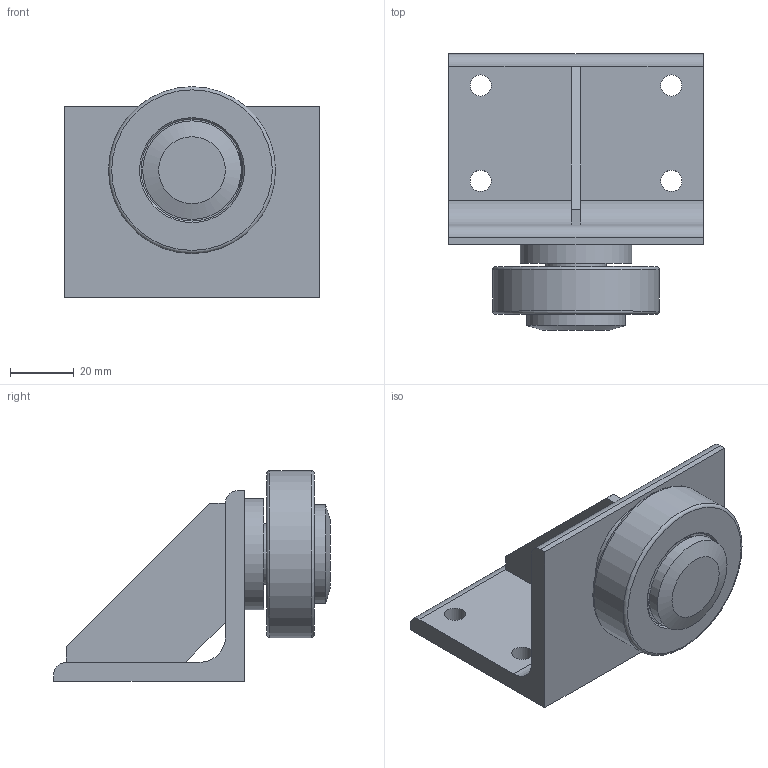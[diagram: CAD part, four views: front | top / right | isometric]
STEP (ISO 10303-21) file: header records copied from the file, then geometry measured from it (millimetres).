
FILE_DESCRIPTION(/* description */ ('-','CAx-IF Rec.Pracs.---Representation and Presentation of Product Manufacturing Information (PMI)---4.0---2014-10-13'),/* implementation_level */ '2;1');
FILE_NAME(/* name */ 'c:\temp\3c58cfa3-c98a-4857-9e4a-96053b142fb7\fbf8bff8-fc33-4ab1-bdec-f4c749796282.stp',/* time_stamp */ '2020-04-01T16:10:52+02:00',/* author */ ('-'),/* organization */ ('NTI CADcenter A/S'),/* preprocessor_version */ 'ST-DEVELOPER v18',/* originating_system */ 'Autodesk Inventor 2020',/* authorisation */ '-');
FILE_SCHEMA (('AP242_MANAGED_MODEL_BASED_3D_ENGINEERING_MIM_LF { 1 0 10303 442 1 1 4 }'));
Length unit declared in the file: millimetre
Products named in the file (1): PAS 050.0360 BW1200_Kontur
Bounding box: 80 x 87 x 66.25 mm (x, y, z)
Volume: 96344.6 mm3; surface area: 33661.9 mm2
Topology: 1 solids, 1 shells, 86 faces, 249 edges, 171 vertices
Faces by surface type: plane 43, cylinder 34, cone 5, torus 4
Full cylindrical faces by diameter (mm): 1.7 x2, 2.5 x2, 6.647 x5, 8 x1, 14.3 x1, 15 x2, 19 x1, 28.8 x1, 31 x1, 32 x2, 33.7 x1, 35 x1, 52.5 x1
Entity records: 3007 total; most frequent: DIRECTION 558, CARTESIAN_POINT 507, ORIENTED_EDGE 498, EDGE_CURVE 249, AXIS2_PLACEMENT_3D 222, VERTEX_POINT 171, CIRCLE 135, LINE 114
